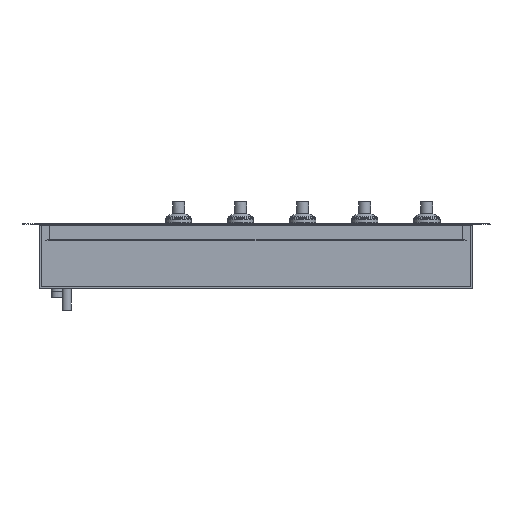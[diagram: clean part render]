
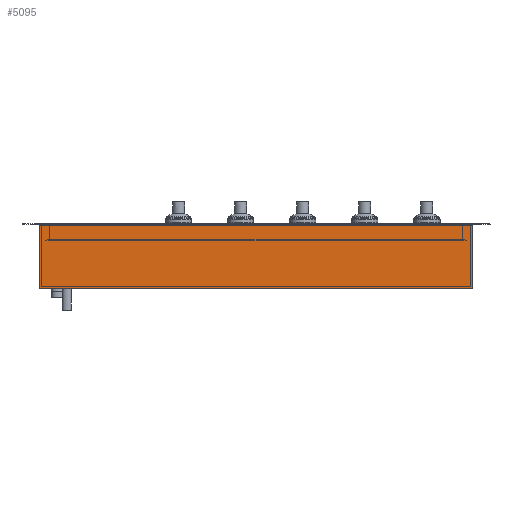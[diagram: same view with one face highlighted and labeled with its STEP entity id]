
A CAD part, left-side view. The second image highlights one B-rep face of the part: STEP entity #5095.
In plain terms, the highlighted planar face has unit normal (-1, 0, 0).
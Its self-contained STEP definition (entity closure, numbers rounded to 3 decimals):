
#972=LINE('',#28237,#2487);
#982=LINE('',#28258,#2497);
#990=LINE('',#28274,#2505);
#994=LINE('',#28281,#2509);
#2487=VECTOR('',#22978,1.);
#2497=VECTOR('',#22994,1.);
#2505=VECTOR('',#23006,1.);
#2509=VECTOR('',#23012,1.);
#5095=ADVANCED_FACE('',(#6585),#5861,.F.);
#5861=PLANE('',#19113);
#6585=FACE_OUTER_BOUND('',#7607,.T.);
#7607=EDGE_LOOP('',(#11025,#11026,#11027,#11028));
#11025=ORIENTED_EDGE('',*,*,#16131,.T.);
#11026=ORIENTED_EDGE('',*,*,#16149,.F.);
#11027=ORIENTED_EDGE('',*,*,#16153,.F.);
#11028=ORIENTED_EDGE('',*,*,#16141,.T.);
#14009=VERTEX_POINT('',#28238);
#14010=VERTEX_POINT('',#28239);
#14017=VERTEX_POINT('',#28259);
#14022=VERTEX_POINT('',#28273);
#16131=EDGE_CURVE('',#14009,#14010,#972,.T.);
#16141=EDGE_CURVE('',#14017,#14009,#982,.T.);
#16149=EDGE_CURVE('',#14022,#14010,#990,.T.);
#16153=EDGE_CURVE('',#14017,#14022,#994,.T.);
#19113=AXIS2_PLACEMENT_3D('',#28282,#23013,#23014);
#22978=DIRECTION('',(0.,1.,0.));
#22994=DIRECTION('',(0.,0.,1.));
#23006=DIRECTION('',(0.,0.,1.));
#23012=DIRECTION('',(0.,1.,0.));
#23013=DIRECTION('',(1.,0.,0.));
#23014=DIRECTION('',(0.,0.,-1.));
#28237=CARTESIAN_POINT('',(-76.904,-427.484,7.896));
#28238=CARTESIAN_POINT('',(-76.904,-427.484,7.896));
#28239=CARTESIAN_POINT('',(-76.904,47.516,7.896));
#28258=CARTESIAN_POINT('',(-76.904,-427.484,-61.604));
#28259=CARTESIAN_POINT('',(-76.904,-427.484,-61.604));
#28273=CARTESIAN_POINT('',(-76.904,47.516,-61.604));
#28274=CARTESIAN_POINT('',(-76.904,47.516,-61.604));
#28281=CARTESIAN_POINT('',(-76.904,-427.484,-61.604));
#28282=CARTESIAN_POINT('',(-76.904,-427.484,-61.604));
